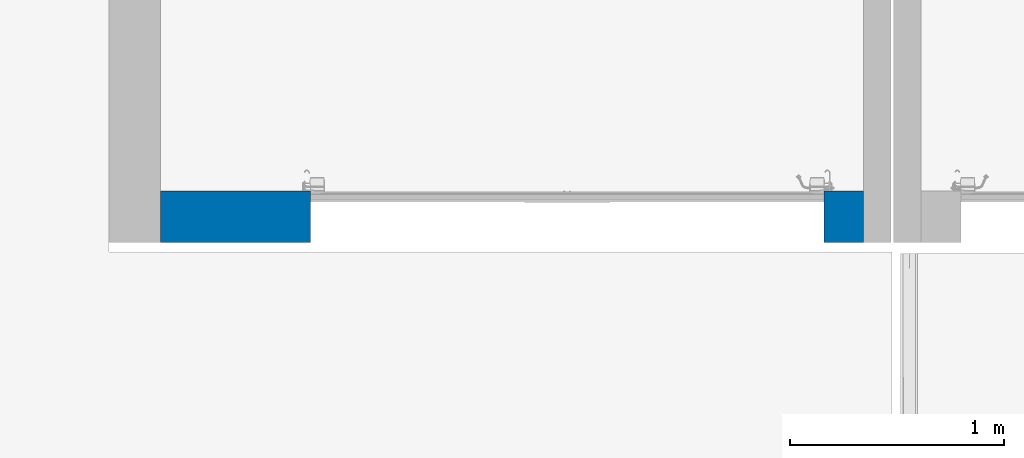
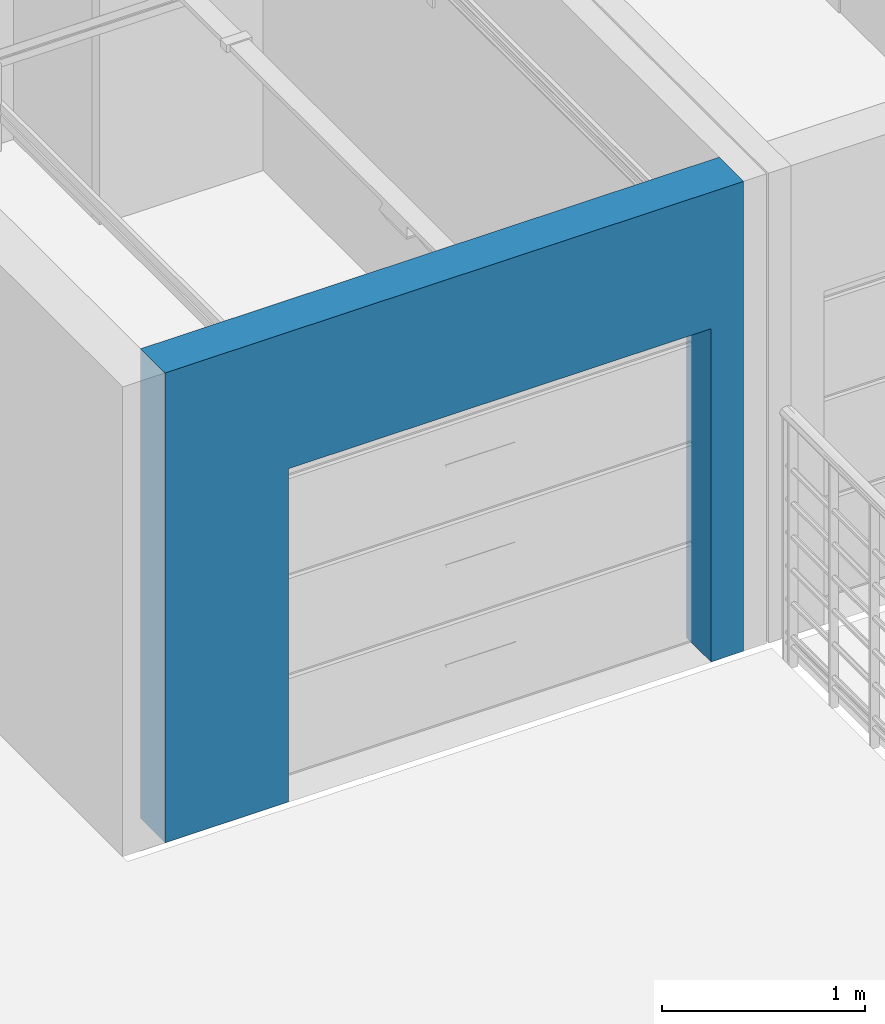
# One storey, part 4 of 30: 1 wall, 1 opening.
"""IFC2X3 building model written with IfcOpenShell, lengths in metres."""

from ifc_helpers import new_model, entity, si_unit, converted_unit, derived_unit, direction, frame, frame_2d, origin, place, context, subcontext, project, spatial, rectangle, extrude, material, layer, layer_set, layer_usage, type_object, element, save


model = new_model("IFC2X3")

# Units and contexts
model_context = context("Model", 3, precision=1e-05, world=origin(), true_north=direction((6.12303176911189e-17, 1.0)))
body_context = subcontext(model_context, "Body", "Model", "MODEL_VIEW")
ifc_project = project(units=[si_unit("LENGTHUNIT", "METRE"), si_unit("AREAUNIT", "SQUARE_METRE"), si_unit("VOLUMEUNIT", "CUBIC_METRE"), converted_unit("PLANEANGLEUNIT", "DEGREE", entity("IfcRatioMeasure", 0.0174532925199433), si_unit("PLANEANGLEUNIT", "RADIAN"), dimensions=[0, 0, 0, 0, 0, 0, 0]), si_unit("MASSUNIT", "GRAM", prefix="KILO"), derived_unit("MASSDENSITYUNIT", [(si_unit("MASSUNIT", "GRAM", prefix="KILO"), 1), (si_unit("LENGTHUNIT", "METRE"), -3)]), si_unit("TIMEUNIT", "SECOND"), si_unit("FREQUENCYUNIT", "HERTZ"), si_unit("THERMODYNAMICTEMPERATUREUNIT", "DEGREE_CELSIUS"), derived_unit("THERMALTRANSMITTANCEUNIT", [(si_unit("MASSUNIT", "GRAM", prefix="KILO"), 1), (si_unit("THERMODYNAMICTEMPERATUREUNIT", "KELVIN"), -1), (si_unit("TIMEUNIT", "SECOND"), -3)]), derived_unit("VOLUMETRICFLOWRATEUNIT", [(si_unit("LENGTHUNIT", "METRE"), 3), (si_unit("TIMEUNIT", "SECOND"), -1)]), si_unit("ELECTRICCURRENTUNIT", "AMPERE"), si_unit("ELECTRICVOLTAGEUNIT", "VOLT"), si_unit("POWERUNIT", "WATT"), si_unit("FORCEUNIT", "NEWTON", prefix="KILO"), si_unit("ILLUMINANCEUNIT", "LUX"), si_unit("LUMINOUSFLUXUNIT", "LUMEN"), si_unit("LUMINOUSINTENSITYUNIT", "CANDELA"), derived_unit("USERDEFINED", [(si_unit("MASSUNIT", "GRAM", prefix="KILO"), -1), (si_unit("LENGTHUNIT", "METRE"), -2), (si_unit("TIMEUNIT", "SECOND"), 3), (si_unit("LUMINOUSFLUXUNIT", "LUMEN"), 1)]), derived_unit("LINEARVELOCITYUNIT", [(si_unit("LENGTHUNIT", "METRE"), 1), (si_unit("TIMEUNIT", "SECOND"), -1)]), si_unit("PRESSUREUNIT", "PASCAL"), derived_unit("USERDEFINED", [(si_unit("LENGTHUNIT", "METRE"), -2), (si_unit("MASSUNIT", "GRAM", prefix="KILO"), 1), (si_unit("TIMEUNIT", "SECOND"), -2)])], contexts=[model_context])

# Site, building, storey
site_placement = place(None, origin())
site = spatial("IfcSite", under=ifc_project, at=site_placement, Name="Surface", CompositionType="ELEMENT")
building_placement = place(site_placement, origin())
building = spatial("IfcBuilding", under=site, at=building_placement, CompositionType="ELEMENT")
storey_placement = place(building_placement, origin())
storey = spatial("IfcBuildingStorey", under=building, at=storey_placement, Name="Plan des fondations  Maisons 1 et 2", CompositionType="ELEMENT", Elevation=0.0)

# Wall, opening
ifc_material_1 = material(Name="Enduit  gris")
ifc_layer_1 = layer(ifc_material_1, 0.02)
ifc_material_2 = material(Name="Parpaing")
ifc_layer_2 = layer(ifc_material_2, 0.2)
ifc_layer_3 = layer(ifc_material_1, 0.02)
ifc_layer_set = layer_set([ifc_layer_1, ifc_layer_2, ifc_layer_3], Name="Mur de base:Ext. Parpaing 2 + 20 + 2 gris")
ifc_layer_usage = layer_usage(ifc_layer_set, "AXIS2", "POSITIVE", -0.12)
wall_type = type_object("IfcWallType", Name="Mur de base:Ext. Parpaing 2 + 20 + 2 gris", PredefinedType="STANDARD", material=ifc_layer_set)
wall_placement = place(storey_placement, frame((68.6996263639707, 77.0077566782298, 0.0), z_axis=(0.0, 0.0, 1.0), x_axis=(-1.0, 0.0, 0.0)))
wall = element("IfcWallStandardCase", 1, at=wall_placement, inside=storey, type_object=wall_type, material=ifc_layer_usage, Name="Mur de base:Ext. Parpaing 2 + 20 + 2 gris", ObjectType="Mur de base:Ext. Parpaing 2 + 20 + 2 gris", context=body_context, shape_type="SweptSolid", body=[
    extrude(rectangle(XDim=3.28499999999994, YDim=0.239999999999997, at=frame_2d((1.64249999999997, -2.14411821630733e-15), x_axis=(-1.0, 0.0))), origin(), (0.0, 0.0, 1.0), 2.82),
])
opening_placement = place(wall_placement, frame((2.58500000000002, 0.120000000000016, 0.0)))
element("IfcOpeningElement", 2, at=opening_placement, cuts=wall, Name="Landscaping-Gates- La Toulousaine-La_Toulousaine-Porte_de_garage_HARMONIE_ESQUIF:Landscaping-Gates- La Toulousaine-La_Toulousaine-Porte_de_garage_HARMONIE_ESQUIF 2.00 larg x 2.40 ht:1", ObjectType="Opening", context=body_context, shape_type="SweptSolid", body=[
    extrude(rectangle(XDim=2.0, YDim=2.4, at=frame_2d((1.0, 1.2), x_axis=(1.0, 0.0))), frame((0.0, 0.0, 0.0), z_axis=(0.0, -1.0, 0.0), x_axis=(0.0, 0.0, 1.0)), (0.0, 0.0, 1.0), 0.24),
])

save(model, "model.ifc")
